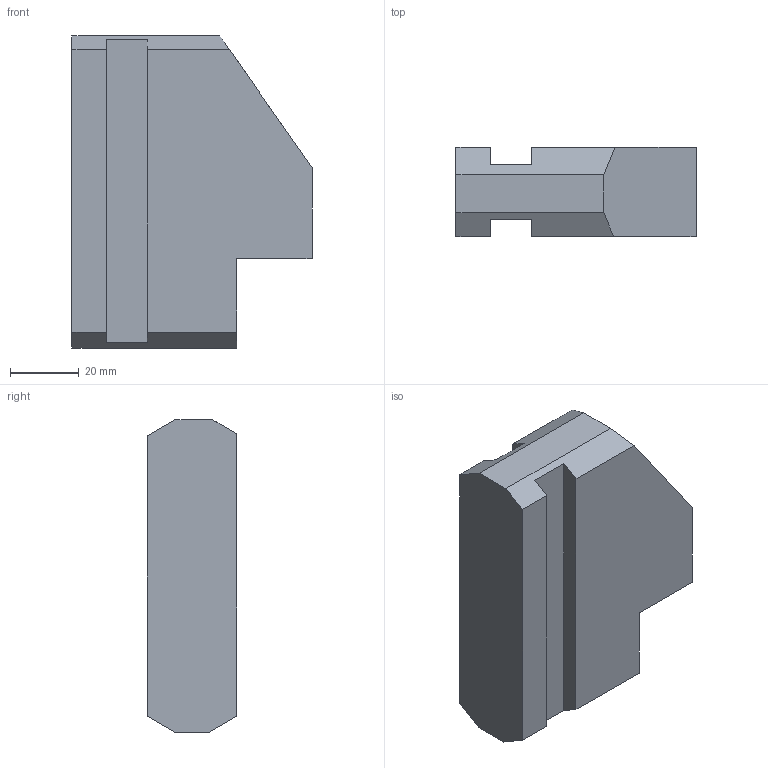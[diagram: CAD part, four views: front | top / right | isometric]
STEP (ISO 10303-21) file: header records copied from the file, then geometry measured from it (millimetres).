
FILE_DESCRIPTION(('CATIA V5 STEP Exchange'),'2;1');
FILE_NAME('D:\Clients_NCS8\Cenit-AG\Import\OKUMA250\C1-M1.stp','2005-03-09T16:50:50+00:00',('none'),('none'),'CATIA Version 5 Release 14 (IN-10)','CATIA V5 STEP AP203','none');
FILE_SCHEMA(('CONFIG_CONTROL_DESIGN'));
Length unit declared in the file: millimetre
Products named in the file (2): okuma_dr-fr; FORKART_FNC315
Assembly tree (2 placements, depth 3):
  okuma_dr-fr
    FORKART_FNC315
      #62
Bounding box: 70 x 26 x 91 mm (x, y, z)
Volume: 123882.3 mm3; surface area: 19284.7 mm2
Topology: 1 solids, 1 shells, 21 faces, 57 edges, 38 vertices
Faces by surface type: plane 21
Entity records: 714 total; most frequent: CARTESIAN_POINT 116, ORIENTED_EDGE 114, DIRECTION 99, VECTOR 57, EDGE_CURVE 57, LINE 57, VERTEX_POINT 38, AXIS2_PLACEMENT_3D 21
